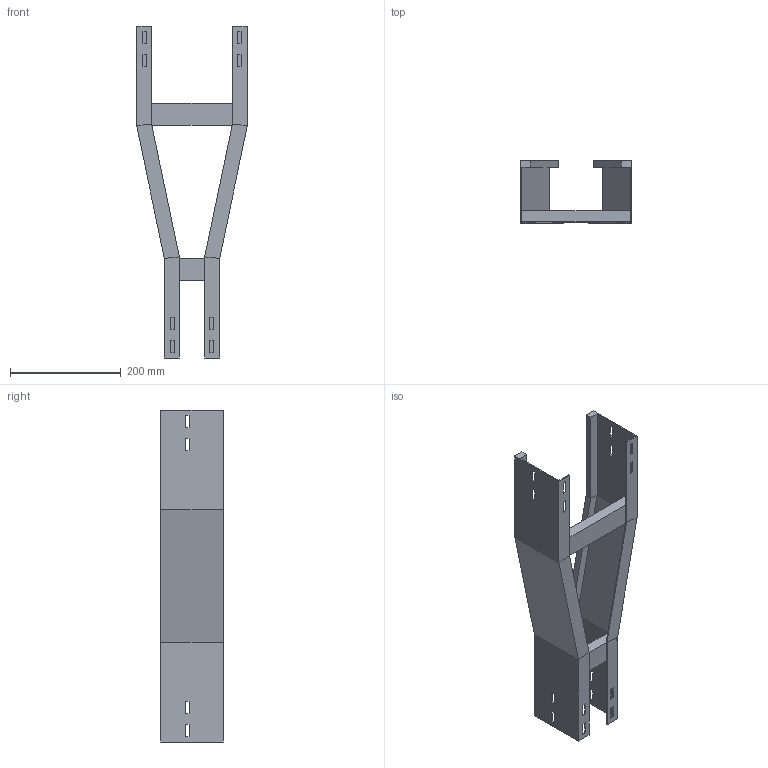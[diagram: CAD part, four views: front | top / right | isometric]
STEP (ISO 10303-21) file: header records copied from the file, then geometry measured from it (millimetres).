
FILE_DESCRIPTION (( 'STEP AP214' ), '1' );
FILE_NAME ('B2X20B1J200XX.step', '2025-09-02T17:13:44', ( '' ), ( '' ), 'SwSTEP 2.0', 'SolidWorks 2023', '' );
FILE_SCHEMA (( 'AUTOMOTIVE_DESIGN' ));
Length unit declared in the file: millimetre
Products named in the file (4): TRAVERSINO_200; SPONDA RID. CENTRALE 200-100_H112.5; TRAVERSINO_100; B2X20B1J200XX
Assembly tree (3 placements, depth 2):
  B2X20B1J200XX
    SPONDA RID. CENTRALE 200-100_H112.5
    TRAVERSINO_100
    TRAVERSINO_200
Bounding box: 200 x 112.5 x 600 mm (x, y, z)
Volume: 796804.9 mm3; surface area: 413773.2 mm2
Topology: 4 solids, 4 shells, 128 faces, 328 edges, 208 vertices
Faces by surface type: plane 128
Entity records: 3950 total; most frequent: CARTESIAN_POINT 670, ORIENTED_EDGE 656, DIRECTION 596, VECTOR 328, EDGE_CURVE 328, LINE 328, VERTEX_POINT 208, EDGE_LOOP 160
